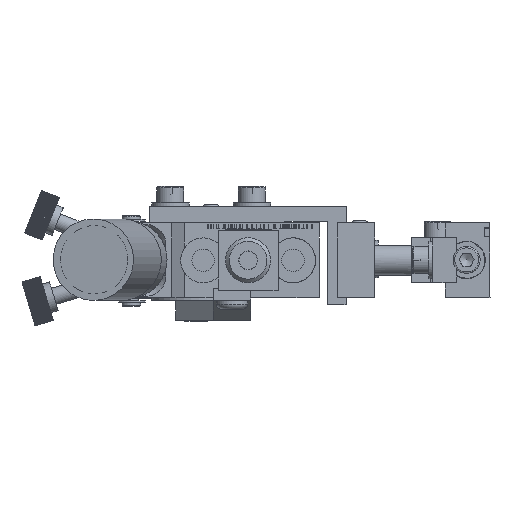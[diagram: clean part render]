
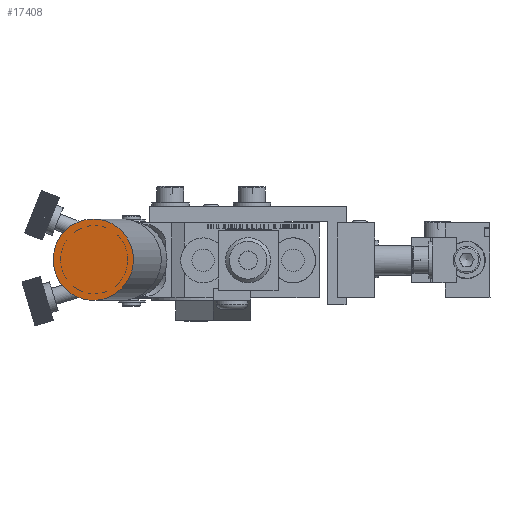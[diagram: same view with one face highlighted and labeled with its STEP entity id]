
A CAD part, front view. The second image highlights one B-rep face of the part: STEP entity #17408.
In plain terms, the highlighted planar face has unit normal (-0.174, -0.985, 0).
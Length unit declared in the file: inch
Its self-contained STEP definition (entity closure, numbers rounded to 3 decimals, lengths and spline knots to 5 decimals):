
#17372=CARTESIAN_POINT('',(-0.93754,-8.71993,-0.55727));
#17373=VERTEX_POINT('',#17372);
#17374=CARTESIAN_POINT('',(-0.8449,-8.73627,-0.23054));
#17375=DIRECTION('',(-0.174,-0.985,0.));
#17376=DIRECTION('',(0.272,-0.048,0.961));
#17377=AXIS2_PLACEMENT_3D('',#17374,#17375,#17376);
#17378=CIRCLE('',#17377,0.34);
#17379=EDGE_CURVE('',#17373,#17373,#17378,.T.);
#17400=CARTESIAN_POINT('',(-0.8449,-8.73627,-0.23054));
#17401=DIRECTION('',(-0.174,-0.985,0.));
#17402=DIRECTION('',(0.272,-0.048,0.961));
#17403=AXIS2_PLACEMENT_3D('',#17400,#17401,#17402);
#17404=PLANE('',#17403);
#17405=ORIENTED_EDGE('',*,*,#17379,.T.);
#17406=EDGE_LOOP('',(#17405));
#17407=FACE_OUTER_BOUND('',#17406,.T.);
#17408=ADVANCED_FACE('',(#17407),#17404,.T.);
